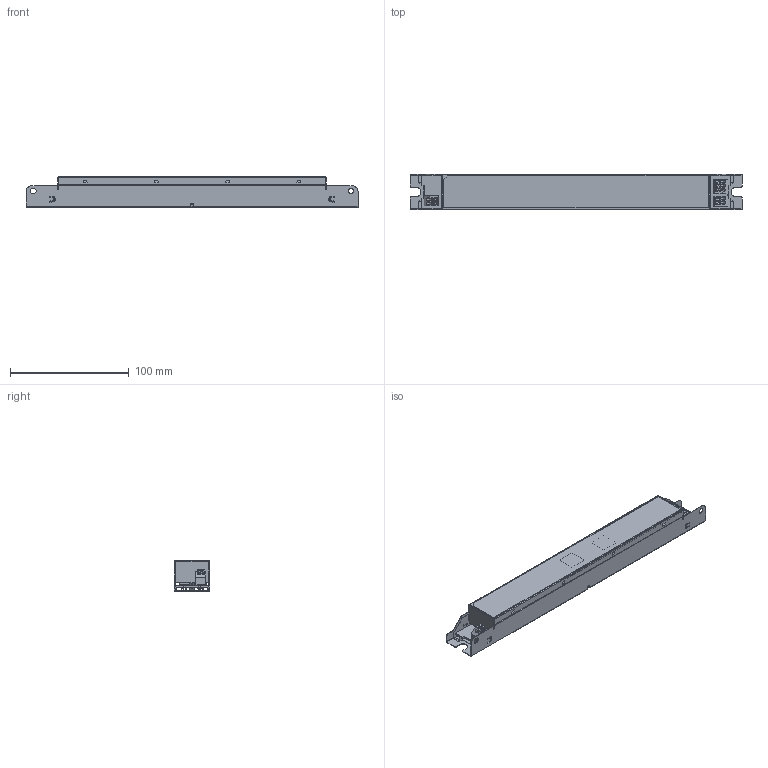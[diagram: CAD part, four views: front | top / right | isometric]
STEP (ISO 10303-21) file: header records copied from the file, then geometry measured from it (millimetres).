
FILE_DESCRIPTION((''),'2;1');
FILE_NAME('3D_USCT-040105LA_ASM','2024-09-03T14:04:18',('ALBERT.LI'),(''),'CREO PARAMETRIC BY PTC INC, 2023294','CREO PARAMETRIC BY PTC INC, 2023294','');
FILE_SCHEMA(('CONFIG_CONTROL_DESIGN'));
Length unit declared in the file: millimetre
Products named in the file (11): BASE_192; COVER_76; PWB_131; DG250-3_5-02P-11-00AH; DG250-3_5-03P-11-00AH; PWB-ASSY_ASM_92_ASM; MYLAR_180; LABEL_3; THERMAL_PAD_3247000100_1; ASSY-2CHANNEL_ASM_73_ASM; 3D_USCT-040105LA_ASM
Assembly tree (12 placements, depth 4):
  3D_USCT-040105LA_ASM
    ASSY-2CHANNEL_ASM_73_ASM
      BASE_192
      COVER_76
      PWB-ASSY_ASM_92_ASM
        PWB_131
        DG250-3_5-02P-11-00AH  x2
        DG250-3_5-03P-11-00AH
      MYLAR_180
      LABEL_3
      THERMAL_PAD_3247000100_1  x2
Bounding box: 280 x 30 x 25.48 mm (x, y, z)
Volume: 35087.4 mm3; surface area: 147144.8 mm2
Topology: 10 solids, 10 shells, 1114 faces, 3088 edges, 2004 vertices
Faces by surface type: plane 856, cylinder 215, bspline 36, extrusion 7
Entity records: 31629 total; most frequent: CARTESIAN_POINT 6661, ORIENTED_EDGE 5294, DIRECTION 4903, EDGE_CURVE 2647, VECTOR 2191, LINE 2186, VERTEX_POINT 1709, AXIS2_PLACEMENT_3D 1356
